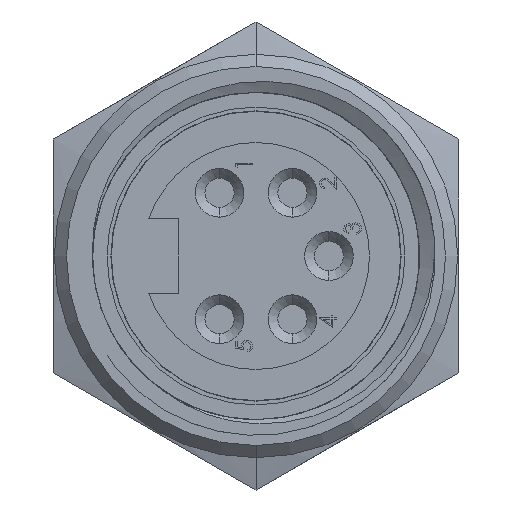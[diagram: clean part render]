
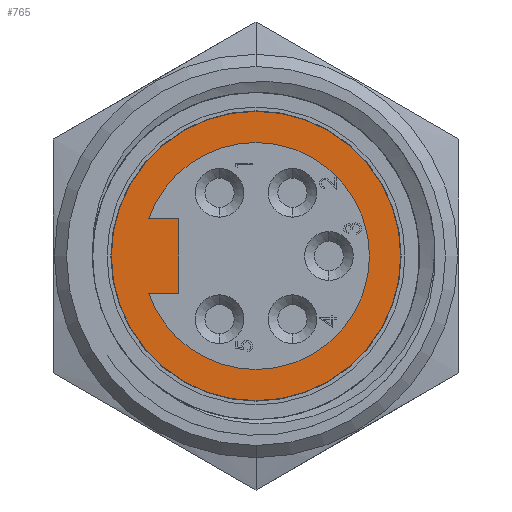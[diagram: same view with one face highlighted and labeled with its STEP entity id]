
A CAD part, left-side view. The second image highlights one B-rep face of the part: STEP entity #765.
In plain terms, the highlighted planar face has unit normal (-1, 0, 0).
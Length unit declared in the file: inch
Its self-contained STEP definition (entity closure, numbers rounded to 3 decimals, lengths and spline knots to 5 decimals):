
#539 = EDGE_CURVE ( 'NONE', #540, #541, #7568, .T. ) ;
#540 = VERTEX_POINT ( 'NONE', #7582 ) ;
#541 = VERTEX_POINT ( 'NONE', #7581 ) ;
#725 = EDGE_CURVE ( 'NONE', #541, #726, #9766, .T. ) ;
#726 = VERTEX_POINT ( 'NONE', #9833 ) ;
#755 = EDGE_CURVE ( 'NONE', #772, #771, #10253, .T. ) ;
#765 = ADVANCED_FACE ( 'NONE', ( #10611, #10609 ), #10646, .F. ) ;
#766 = ORIENTED_EDGE ( 'NONE', *, *, #539, .F. ) ;
#767 = ORIENTED_EDGE ( 'NONE', *, *, #910, .T. ) ;
#768 = EDGE_LOOP ( 'NONE', ( #769, #773 ) ) ;
#769 = ORIENTED_EDGE ( 'NONE', *, *, #770, .T. ) ;
#770 = EDGE_CURVE ( 'NONE', #771, #772, #10640, .T. ) ;
#771 = VERTEX_POINT ( 'NONE', #10636 ) ;
#772 = VERTEX_POINT ( 'NONE', #10635 ) ;
#773 = ORIENTED_EDGE ( 'NONE', *, *, #755, .T. ) ;
#910 = EDGE_CURVE ( 'NONE', #540, #1005, #11132, .T. ) ;
#911 = EDGE_LOOP ( 'NONE', ( #766, #767, #913, #914, #915, #917 ) ) ;
#913 = ORIENTED_EDGE ( 'NONE', *, *, #1004, .T. ) ;
#914 = ORIENTED_EDGE ( 'NONE', *, *, #1000, .T. ) ;
#915 = ORIENTED_EDGE ( 'NONE', *, *, #916, .F. ) ;
#916 = EDGE_CURVE ( 'NONE', #726, #926, #11128, .T. ) ;
#917 = ORIENTED_EDGE ( 'NONE', *, *, #725, .F. ) ;
#926 = VERTEX_POINT ( 'NONE', #11317 ) ;
#927 = VERTEX_POINT ( 'NONE', #11423 ) ;
#1000 = EDGE_CURVE ( 'NONE', #927, #926, #11687, .T. ) ;
#1004 = EDGE_CURVE ( 'NONE', #1005, #927, #11773, .T. ) ;
#1005 = VERTEX_POINT ( 'NONE', #11769 ) ;
#7568 = CIRCLE ( 'NONE', #7586, 0.28 ) ;
#7581 = CARTESIAN_POINT ( 'NONE',  ( 0.138, 0., -0.28 ) ) ;
#7582 = CARTESIAN_POINT ( 'NONE',  ( 0.138, 0.26463, -0.0915 ) ) ;
#7583 = DIRECTION ( 'NONE',  ( 0., 0., 1. ) ) ;
#7584 = DIRECTION ( 'NONE',  ( -1., 0., 0. ) ) ;
#7585 = CARTESIAN_POINT ( 'NONE',  ( 0.138, 0., 0. ) ) ;
#7586 = AXIS2_PLACEMENT_3D ( 'NONE', #7585, #7584, #7583 ) ;
#9751 = CARTESIAN_POINT ( 'NONE',  ( 0.138, 0., 0. ) ) ;
#9756 = DIRECTION ( 'NONE',  ( -1., 0., 0. ) ) ;
#9764 = DIRECTION ( 'NONE',  ( 0., 0., 1. ) ) ;
#9766 = CIRCLE ( 'NONE', #9944, 0.28 ) ;
#9833 = CARTESIAN_POINT ( 'NONE',  ( 0.138, 0., 0.28 ) ) ;
#9894 = AXIS2_PLACEMENT_3D ( 'NONE', #9751, #9756, #9764 ) ;
#9941 = DIRECTION ( 'NONE',  ( 0., 0., 1. ) ) ;
#9942 = DIRECTION ( 'NONE',  ( -1., 0., 0. ) ) ;
#9943 = CARTESIAN_POINT ( 'NONE',  ( 0.138, 0., 0. ) ) ;
#9944 = AXIS2_PLACEMENT_3D ( 'NONE', #9943, #9942, #9941 ) ;
#10253 = CIRCLE ( 'NONE', #9894, 0.357 ) ;
#10609 = FACE_OUTER_BOUND ( 'NONE', #768, .T. ) ;
#10611 = FACE_BOUND ( 'NONE', #911, .T. ) ;
#10635 = CARTESIAN_POINT ( 'NONE',  ( 0.138, 0., -0.357 ) ) ;
#10636 = CARTESIAN_POINT ( 'NONE',  ( 0.138, 0., 0.357 ) ) ;
#10637 = DIRECTION ( 'NONE',  ( 0., 0., 1. ) ) ;
#10638 = DIRECTION ( 'NONE',  ( -1., 0., 0. ) ) ;
#10639 = AXIS2_PLACEMENT_3D ( 'NONE', #10645, #10638, #10637 ) ;
#10640 = CIRCLE ( 'NONE', #10639, 0.357 ) ;
#10641 = DIRECTION ( 'NONE',  ( 0., 0., -1. ) ) ;
#10642 = DIRECTION ( 'NONE',  ( 1., 0., 0. ) ) ;
#10643 = CARTESIAN_POINT ( 'NONE',  ( 0.138, 0.28, 0. ) ) ;
#10644 = AXIS2_PLACEMENT_3D ( 'NONE', #10643, #10642, #10641 ) ;
#10645 = CARTESIAN_POINT ( 'NONE',  ( 0.138, 0., 0. ) ) ;
#10646 = PLANE ( 'NONE',  #10644 ) ;
#11124 = DIRECTION ( 'NONE',  ( 0., 0., 1. ) ) ;
#11125 = DIRECTION ( 'NONE',  ( -1., 0., 0. ) ) ;
#11126 = CARTESIAN_POINT ( 'NONE',  ( 0.138, 0., 0. ) ) ;
#11127 = AXIS2_PLACEMENT_3D ( 'NONE', #11126, #11125, #11124 ) ;
#11128 = CIRCLE ( 'NONE', #11127, 0.28 ) ;
#11129 = DIRECTION ( 'NONE',  ( 0., -1., 0. ) ) ;
#11130 = VECTOR ( 'NONE', #11129, 39.37008 ) ;
#11131 = CARTESIAN_POINT ( 'NONE',  ( 0.138, 0.26463, -0.0915 ) ) ;
#11132 = LINE ( 'NONE', #11131, #11130 ) ;
#11317 = CARTESIAN_POINT ( 'NONE',  ( 0.138, 0.26463, 0.0915 ) ) ;
#11423 = CARTESIAN_POINT ( 'NONE',  ( 0.138, 0.19, 0.0915 ) ) ;
#11687 = LINE ( 'NONE', #11765, #11775 ) ;
#11765 = CARTESIAN_POINT ( 'NONE',  ( 0.138, 0.19, 0.0915 ) ) ;
#11769 = CARTESIAN_POINT ( 'NONE',  ( 0.138, 0.19, -0.0915 ) ) ;
#11770 = DIRECTION ( 'NONE',  ( 0., 0., 1. ) ) ;
#11771 = VECTOR ( 'NONE', #11770, 39.37008 ) ;
#11772 = CARTESIAN_POINT ( 'NONE',  ( 0.138, 0.19, -0.0915 ) ) ;
#11773 = LINE ( 'NONE', #11772, #11771 ) ;
#11774 = DIRECTION ( 'NONE',  ( 0., 1., 0. ) ) ;
#11775 = VECTOR ( 'NONE', #11774, 39.37008 ) ;
